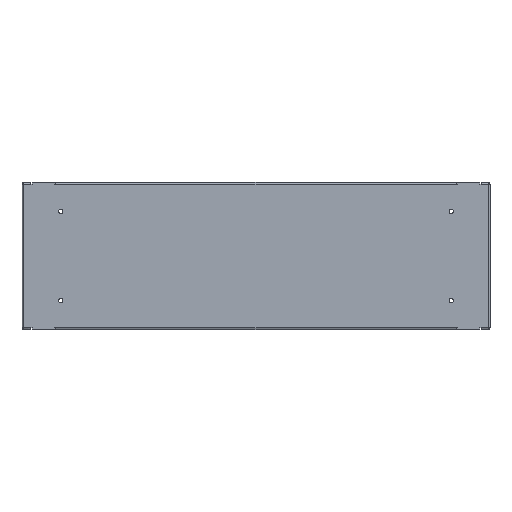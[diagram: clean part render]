
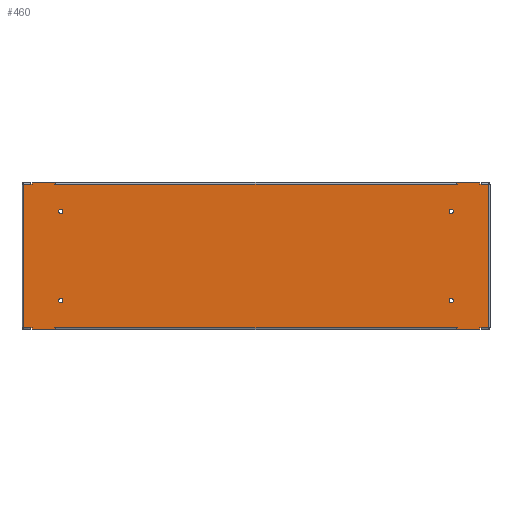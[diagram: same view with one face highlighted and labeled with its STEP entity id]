
A CAD part, top view. The second image highlights one B-rep face of the part: STEP entity #460.
In plain terms, the highlighted planar face has unit normal (0, 0, 1).
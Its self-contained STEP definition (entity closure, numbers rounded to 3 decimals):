
#460=ADVANCED_FACE('',(#1854,#1856,#1858,#1860,#1862),#1864,.F.);
#1854=FACE_BOUND('',#1855,.T.);
#1855=EDGE_LOOP('',(#3238,#3239,#3240,#3241,#3242,#3243,#3244,#3245,#3246,#3247,
#3248,#3249,#3250,#3251,#3252,#3253,#3254,#3255,#3256,#3257,#3258,#3259,#3260,#3261,
#3262,#3263,#3264,#3265));
#1856=FACE_BOUND('',#1857,.T.);
#1857=EDGE_LOOP('',(#3266));
#1858=FACE_BOUND('',#1859,.T.);
#1859=EDGE_LOOP('',(#3267));
#1860=FACE_BOUND('',#1861,.T.);
#1861=EDGE_LOOP('',(#3268));
#1862=FACE_BOUND('',#1863,.T.);
#1863=EDGE_LOOP('',(#3269));
#1864=PLANE('',#1865);
#1865=AXIS2_PLACEMENT_3D('',#1866,#1867,#1868);
#1866=CARTESIAN_POINT('',(0.,0.,0.));
#1867=DIRECTION('',(0.,0.,-1.));
#1868=DIRECTION('',(-1.,0.,0.));
#3238=ORIENTED_EDGE('',*,*,#3938,.T.);
#3239=ORIENTED_EDGE('',*,*,#3837,.T.);
#3240=ORIENTED_EDGE('',*,*,#3821,.T.);
#3241=ORIENTED_EDGE('',*,*,#3939,.F.);
#3242=ORIENTED_EDGE('',*,*,#3940,.F.);
#3243=ORIENTED_EDGE('',*,*,#3941,.F.);
#3244=ORIENTED_EDGE('',*,*,#3823,.T.);
#3245=ORIENTED_EDGE('',*,*,#3829,.T.);
#3246=ORIENTED_EDGE('',*,*,#3813,.T.);
#3247=ORIENTED_EDGE('',*,*,#3942,.F.);
#3248=ORIENTED_EDGE('',*,*,#3943,.F.);
#3249=ORIENTED_EDGE('',*,*,#3944,.F.);
#3250=ORIENTED_EDGE('',*,*,#3815,.T.);
#3251=ORIENTED_EDGE('',*,*,#3831,.T.);
#3252=ORIENTED_EDGE('',*,*,#3945,.T.);
#3253=ORIENTED_EDGE('',*,*,#3946,.T.);
#3254=ORIENTED_EDGE('',*,*,#3947,.F.);
#3255=ORIENTED_EDGE('',*,*,#3948,.T.);
#3256=ORIENTED_EDGE('',*,*,#3949,.T.);
#3257=ORIENTED_EDGE('',*,*,#3950,.T.);
#3258=ORIENTED_EDGE('',*,*,#3882,.F.);
#3259=ORIENTED_EDGE('',*,*,#3890,.T.);
#3260=ORIENTED_EDGE('',*,*,#3951,.F.);
#3261=ORIENTED_EDGE('',*,*,#3952,.T.);
#3262=ORIENTED_EDGE('',*,*,#3953,.T.);
#3263=ORIENTED_EDGE('',*,*,#3954,.T.);
#3264=ORIENTED_EDGE('',*,*,#3886,.F.);
#3265=ORIENTED_EDGE('',*,*,#3894,.T.);
#3266=ORIENTED_EDGE('',*,*,#3793,.T.);
#3267=ORIENTED_EDGE('',*,*,#3795,.T.);
#3268=ORIENTED_EDGE('',*,*,#3807,.F.);
#3269=ORIENTED_EDGE('',*,*,#3809,.F.);
#3793=EDGE_CURVE('',#4167,#4167,#4168,.T.);
#3795=EDGE_CURVE('',#4171,#4171,#4172,.T.);
#3807=EDGE_CURVE('',#4195,#4195,#4196,.T.);
#3809=EDGE_CURVE('',#4199,#4199,#4200,.T.);
#3813=EDGE_CURVE('',#4208,#4206,#4209,.T.);
#3815=EDGE_CURVE('',#4211,#4212,#4213,.T.);
#3821=EDGE_CURVE('',#4224,#4222,#4225,.T.);
#3823=EDGE_CURVE('',#4227,#4228,#4229,.T.);
#3829=EDGE_CURVE('',#4228,#4208,#4239,.T.);
#3831=EDGE_CURVE('',#4212,#4241,#4242,.T.);
#3837=EDGE_CURVE('',#4252,#4224,#4253,.T.);
#3882=EDGE_CURVE('',#4324,#4320,#4326,.T.);
#3886=EDGE_CURVE('',#4332,#4328,#4334,.T.);
#3890=EDGE_CURVE('',#4324,#4339,#4341,.T.);
#3894=EDGE_CURVE('',#4332,#4346,#4348,.T.);
#3938=EDGE_CURVE('',#4346,#4252,#4420,.T.);
#3939=EDGE_CURVE('',#4421,#4222,#4422,.T.);
#3940=EDGE_CURVE('',#4423,#4421,#4424,.T.);
#3941=EDGE_CURVE('',#4227,#4423,#4425,.T.);
#3942=EDGE_CURVE('',#4426,#4206,#4427,.T.);
#3943=EDGE_CURVE('',#4428,#4426,#4429,.T.);
#3944=EDGE_CURVE('',#4211,#4428,#4430,.T.);
#3945=EDGE_CURVE('',#4241,#4431,#4432,.T.);
#3946=EDGE_CURVE('',#4431,#4433,#4434,.T.);
#3947=EDGE_CURVE('',#4435,#4433,#4436,.T.);
#3948=EDGE_CURVE('',#4435,#4437,#4438,.T.);
#3949=EDGE_CURVE('',#4437,#4439,#4440,.T.);
#3950=EDGE_CURVE('',#4439,#4320,#4441,.T.);
#3951=EDGE_CURVE('',#4442,#4339,#4443,.T.);
#3952=EDGE_CURVE('',#4442,#4444,#4445,.T.);
#3953=EDGE_CURVE('',#4444,#4446,#4447,.T.);
#3954=EDGE_CURVE('',#4446,#4328,#4448,.T.);
#4167=VERTEX_POINT('',#4779);
#4168=CIRCLE('',#4780,3.65);
#4171=VERTEX_POINT('',#4789);
#4172=CIRCLE('',#4790,3.65);
#4195=VERTEX_POINT('',#4849);
#4196=CIRCLE('',#4850,3.65);
#4199=VERTEX_POINT('',#4859);
#4200=CIRCLE('',#4860,3.65);
#4206=VERTEX_POINT('',#4874);
#4208=VERTEX_POINT('',#4878);
#4209=LINE('',#4879,#4880);
#4211=VERTEX_POINT('',#4885);
#4212=VERTEX_POINT('',#4886);
#4213=LINE('',#4887,#4888);
#4222=VERTEX_POINT('',#4906);
#4224=VERTEX_POINT('',#4910);
#4225=LINE('',#4911,#4912);
#4227=VERTEX_POINT('',#4917);
#4228=VERTEX_POINT('',#4918);
#4229=LINE('',#4919,#4920);
#4239=LINE('',#4942,#4943);
#4241=VERTEX_POINT('',#4949);
#4242=LINE('',#4950,#4951);
#4252=VERTEX_POINT('',#4988);
#4253=LINE('',#4989,#4990);
#4320=VERTEX_POINT('',#5184);
#4324=VERTEX_POINT('',#5192);
#4326=LINE('',#5196,#5197);
#4328=VERTEX_POINT('',#5200);
#4332=VERTEX_POINT('',#5208);
#4334=LINE('',#5212,#5213);
#4339=VERTEX_POINT('',#5224);
#4341=LINE('',#5229,#5230);
#4346=VERTEX_POINT('',#5241);
#4348=LINE('',#5259,#5260);
#4420=LINE('',#5435,#5436);
#4421=VERTEX_POINT('',#5438);
#4422=LINE('',#5439,#5440);
#4423=VERTEX_POINT('',#5442);
#4424=LINE('',#5443,#5444);
#4425=LINE('',#5446,#5447);
#4426=VERTEX_POINT('',#5449);
#4427=LINE('',#5450,#5451);
#4428=VERTEX_POINT('',#5453);
#4429=LINE('',#5454,#5455);
#4430=LINE('',#5457,#5458);
#4431=VERTEX_POINT('',#5460);
#4432=LINE('',#5461,#5462);
#4433=VERTEX_POINT('',#5464);
#4434=LINE('',#5465,#5466);
#4435=VERTEX_POINT('',#5468);
#4436=LINE('',#5469,#5470);
#4437=VERTEX_POINT('',#5472);
#4438=LINE('',#5473,#5474);
#4439=VERTEX_POINT('',#5476);
#4440=LINE('',#5477,#5478);
#4441=LINE('',#5480,#5481);
#4442=VERTEX_POINT('',#5483);
#4443=LINE('',#5484,#5485);
#4444=VERTEX_POINT('',#5487);
#4445=LINE('',#5488,#5489);
#4446=VERTEX_POINT('',#5491);
#4447=LINE('',#5492,#5493);
#4448=LINE('',#5495,#5496);
#4779=CARTESIAN_POINT('',(-324.35,-75.,0.));
#4780=AXIS2_PLACEMENT_3D('',#4781,#4782,#4783);
#4781=CARTESIAN_POINT('',(-328.,-75.,0.));
#4782=DIRECTION('',(0.,0.,-1.));
#4783=DIRECTION('',(1.,0.,0.));
#4789=CARTESIAN_POINT('',(331.65,-75.,0.));
#4790=AXIS2_PLACEMENT_3D('',#4791,#4792,#4793);
#4791=CARTESIAN_POINT('',(328.,-75.,0.));
#4792=DIRECTION('',(0.,0.,-1.));
#4793=DIRECTION('',(1.,0.,0.));
#4849=CARTESIAN_POINT('',(-324.35,75.,0.));
#4850=AXIS2_PLACEMENT_3D('',#4851,#4852,#4853);
#4851=CARTESIAN_POINT('',(-328.,75.,0.));
#4852=DIRECTION('',(0.,0.,1.));
#4853=DIRECTION('',(-1.,0.,0.));
#4859=CARTESIAN_POINT('',(331.65,75.,0.));
#4860=AXIS2_PLACEMENT_3D('',#4861,#4862,#4863);
#4861=CARTESIAN_POINT('',(328.,75.,0.));
#4862=DIRECTION('',(0.,0.,1.));
#4863=DIRECTION('',(-1.,0.,0.));
#4874=CARTESIAN_POINT('',(338.2,-120.3,0.));
#4878=CARTESIAN_POINT('',(336.2,-120.3,0.));
#4879=CARTESIAN_POINT('',(336.2,-120.3,0.));
#4880=VECTOR('',#4881,1.);
#4881=DIRECTION('',(1.,0.,0.));
#4885=CARTESIAN_POINT('',(376.2,-120.3,0.));
#4886=CARTESIAN_POINT('',(378.2,-120.3,0.));
#4887=CARTESIAN_POINT('',(376.2,-120.3,0.));
#4888=VECTOR('',#4889,1.);
#4889=DIRECTION('',(1.,0.,0.));
#4906=CARTESIAN_POINT('',(-376.2,-120.3,0.));
#4910=CARTESIAN_POINT('',(-378.2,-120.3,0.));
#4911=CARTESIAN_POINT('',(-378.2,-120.3,0.));
#4912=VECTOR('',#4913,1.);
#4913=DIRECTION('',(1.,0.,0.));
#4917=CARTESIAN_POINT('',(-338.2,-120.3,0.));
#4918=CARTESIAN_POINT('',(-336.2,-120.3,0.));
#4919=CARTESIAN_POINT('',(-338.2,-120.3,0.));
#4920=VECTOR('',#4921,1.);
#4921=DIRECTION('',(1.,0.,0.));
#4942=CARTESIAN_POINT('',(-336.2,-120.3,0.));
#4943=VECTOR('',#4944,1.);
#4944=DIRECTION('',(1.,0.,0.));
#4949=CARTESIAN_POINT('',(390.,-120.3,0.));
#4950=CARTESIAN_POINT('',(378.2,-120.3,0.));
#4951=VECTOR('',#4952,1.);
#4952=DIRECTION('',(1.,0.,0.));
#4988=CARTESIAN_POINT('',(-390.,-120.3,0.));
#4989=CARTESIAN_POINT('',(-390.,-120.3,0.));
#4990=VECTOR('',#4991,1.);
#4991=DIRECTION('',(1.,0.,0.));
#5184=CARTESIAN_POINT('',(338.2,120.3,0.));
#5192=CARTESIAN_POINT('',(336.2,120.3,0.));
#5196=CARTESIAN_POINT('',(336.2,120.3,0.));
#5197=VECTOR('',#5198,1.);
#5198=DIRECTION('',(1.,0.,0.));
#5200=CARTESIAN_POINT('',(-376.2,120.3,0.));
#5208=CARTESIAN_POINT('',(-378.2,120.3,0.));
#5212=CARTESIAN_POINT('',(-378.2,120.3,0.));
#5213=VECTOR('',#5214,1.);
#5214=DIRECTION('',(1.,0.,0.));
#5224=CARTESIAN_POINT('',(-336.2,120.3,0.));
#5229=CARTESIAN_POINT('',(336.2,120.3,0.));
#5230=VECTOR('',#5231,1.);
#5231=DIRECTION('',(-1.,0.,0.));
#5241=CARTESIAN_POINT('',(-390.,120.3,0.));
#5259=CARTESIAN_POINT('',(-378.2,120.3,0.));
#5260=VECTOR('',#5261,1.);
#5261=DIRECTION('',(-1.,0.,0.));
#5435=CARTESIAN_POINT('',(-390.,120.3,0.));
#5436=VECTOR('',#5437,1.);
#5437=DIRECTION('',(0.,-1.,0.));
#5438=CARTESIAN_POINT('',(-376.2,-123.5,0.));
#5439=CARTESIAN_POINT('',(-376.2,-123.5,0.));
#5440=VECTOR('',#5441,1.);
#5441=DIRECTION('',(0.,1.,0.));
#5442=CARTESIAN_POINT('',(-338.2,-123.5,0.));
#5443=CARTESIAN_POINT('',(-338.2,-123.5,0.));
#5444=VECTOR('',#5445,1.);
#5445=DIRECTION('',(-1.,0.,0.));
#5446=CARTESIAN_POINT('',(-338.2,-120.3,0.));
#5447=VECTOR('',#5448,1.);
#5448=DIRECTION('',(0.,-1.,0.));
#5449=CARTESIAN_POINT('',(338.2,-123.5,0.));
#5450=CARTESIAN_POINT('',(338.2,-123.5,0.));
#5451=VECTOR('',#5452,1.);
#5452=DIRECTION('',(0.,1.,0.));
#5453=CARTESIAN_POINT('',(376.2,-123.5,0.));
#5454=CARTESIAN_POINT('',(376.2,-123.5,0.));
#5455=VECTOR('',#5456,1.);
#5456=DIRECTION('',(-1.,0.,0.));
#5457=CARTESIAN_POINT('',(376.2,-120.3,0.));
#5458=VECTOR('',#5459,1.);
#5459=DIRECTION('',(0.,-1.,0.));
#5460=CARTESIAN_POINT('',(390.,120.3,0.));
#5461=CARTESIAN_POINT('',(390.,-120.3,0.));
#5462=VECTOR('',#5463,1.);
#5463=DIRECTION('',(0.,1.,0.));
#5464=CARTESIAN_POINT('',(378.2,120.3,0.));
#5465=CARTESIAN_POINT('',(390.,120.3,0.));
#5466=VECTOR('',#5467,1.);
#5467=DIRECTION('',(-1.,0.,0.));
#5468=CARTESIAN_POINT('',(376.2,120.3,0.));
#5469=CARTESIAN_POINT('',(376.2,120.3,0.));
#5470=VECTOR('',#5471,1.);
#5471=DIRECTION('',(1.,0.,0.));
#5472=CARTESIAN_POINT('',(376.2,123.5,0.));
#5473=CARTESIAN_POINT('',(376.2,120.3,0.));
#5474=VECTOR('',#5475,1.);
#5475=DIRECTION('',(0.,1.,0.));
#5476=CARTESIAN_POINT('',(338.2,123.5,0.));
#5477=CARTESIAN_POINT('',(376.2,123.5,0.));
#5478=VECTOR('',#5479,1.);
#5479=DIRECTION('',(-1.,0.,0.));
#5480=CARTESIAN_POINT('',(338.2,123.5,0.));
#5481=VECTOR('',#5482,1.);
#5482=DIRECTION('',(0.,-1.,0.));
#5483=CARTESIAN_POINT('',(-338.2,120.3,0.));
#5484=CARTESIAN_POINT('',(-338.2,120.3,0.));
#5485=VECTOR('',#5486,1.);
#5486=DIRECTION('',(1.,0.,0.));
#5487=CARTESIAN_POINT('',(-338.2,123.5,0.));
#5488=CARTESIAN_POINT('',(-338.2,120.3,0.));
#5489=VECTOR('',#5490,1.);
#5490=DIRECTION('',(0.,1.,0.));
#5491=CARTESIAN_POINT('',(-376.2,123.5,0.));
#5492=CARTESIAN_POINT('',(-338.2,123.5,0.));
#5493=VECTOR('',#5494,1.);
#5494=DIRECTION('',(-1.,0.,0.));
#5495=CARTESIAN_POINT('',(-376.2,123.5,0.));
#5496=VECTOR('',#5497,1.);
#5497=DIRECTION('',(0.,-1.,0.));
